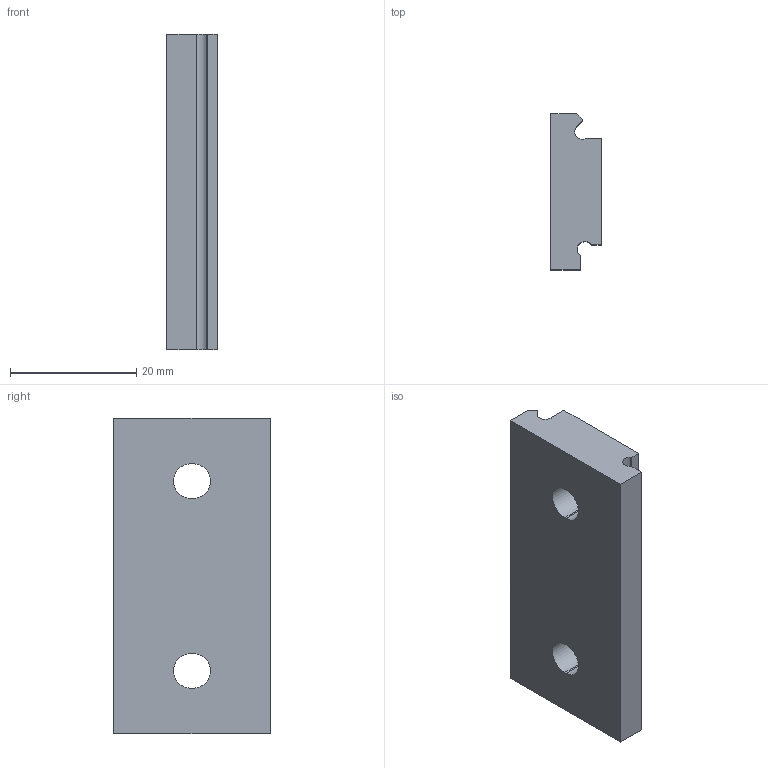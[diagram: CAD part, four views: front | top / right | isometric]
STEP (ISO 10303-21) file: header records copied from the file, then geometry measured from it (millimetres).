
FILE_DESCRIPTION (( 'STEP AP203' ), '1' );
FILE_NAME ('3D-6921324010131.STEP', '2023-12-20T06:33:52', ( '' ), ( '' ), 'SwSTEP 2.0', 'SolidWorks 2021', '' );
FILE_SCHEMA (( 'CONFIG_CONTROL_DESIGN' ));
Length unit declared in the file: millimetre
Products named in the file (1): 3D-6921324010131
Bounding box: 8 x 24.7 x 49.9 mm (x, y, z)
Volume: 7654.8 mm3; surface area: 3944.2 mm2
Topology: 1 solids, 1 shells, 34 faces, 90 edges, 60 vertices
Faces by surface type: plane 24, cylinder 10
Entity records: 1139 total; most frequent: CARTESIAN_POINT 185, ORIENTED_EDGE 180, DIRECTION 180, EDGE_CURVE 90, VECTOR 70, LINE 70, VERTEX_POINT 60, AXIS2_PLACEMENT_3D 55
